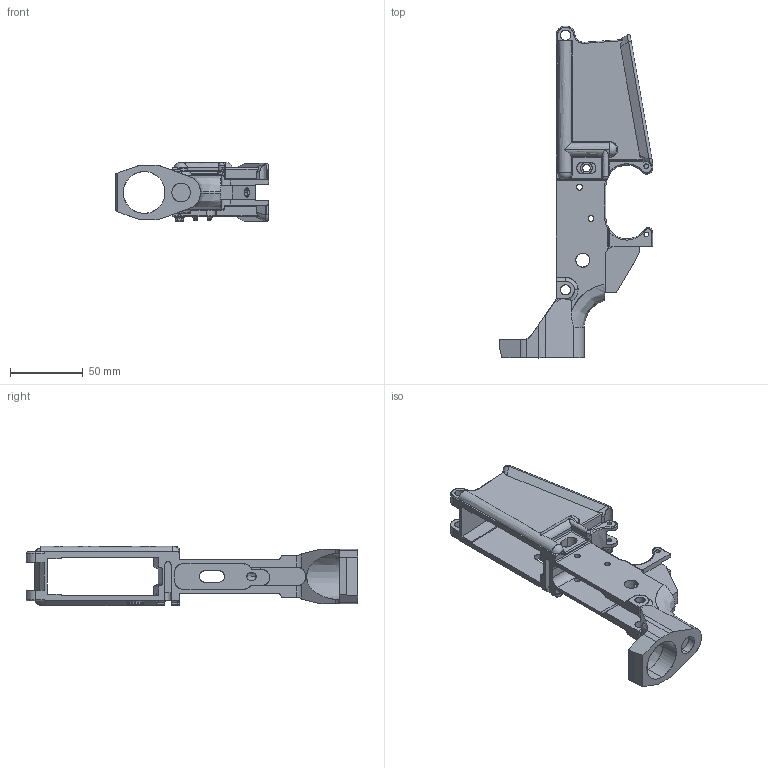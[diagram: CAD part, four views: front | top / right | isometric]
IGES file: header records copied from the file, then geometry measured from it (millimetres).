
Start section: SolidWorks IGES FILE using analytic representation for surfaces
Global section: file name: C:\AAA_Downloads\Gun Drawings\Guns\Iges Files\ar10.IGS; native system: SolidWorks 2004 by SolidWorks Corporation; preprocessor: Version 5.3; author: Me; date: 040220.211432; units: inch
Bounding box: 105.23 x 227.78 x 40.64 mm (x, y, z)
Surface area: 59108 mm2 (no closed solid volume)
Topology: 0 solids, 0 shells, 404 faces, 5959 edges, 5942 vertices
Faces by surface type: bspline 215, revolution 189
